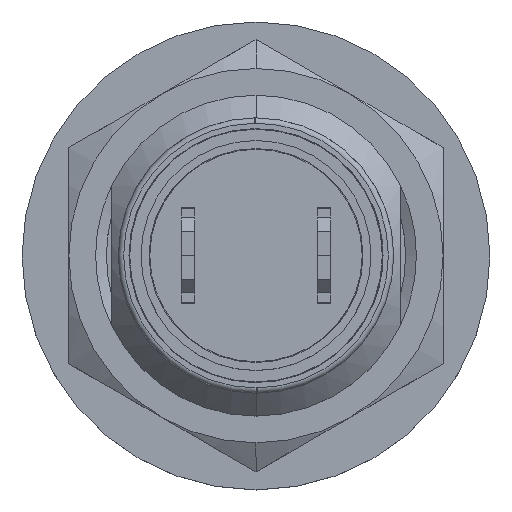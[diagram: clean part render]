
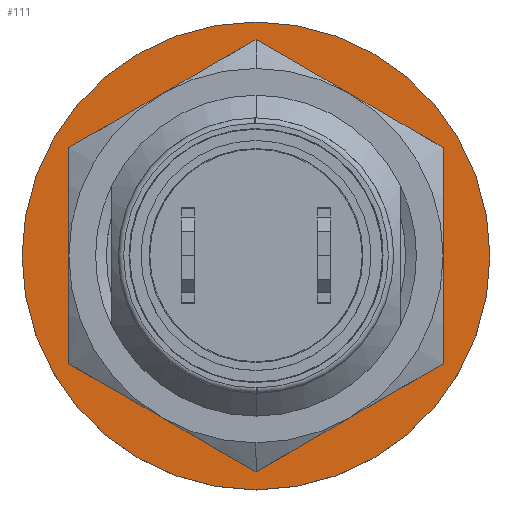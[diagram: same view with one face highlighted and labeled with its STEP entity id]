
A CAD part, top view. The second image highlights one B-rep face of the part: STEP entity #111.
In plain terms, the highlighted planar face has unit normal (0, 0, 1).
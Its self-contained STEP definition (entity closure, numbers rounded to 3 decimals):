
#111=ADVANCED_FACE('',(#386,#387),#388,.T.);
#386=FACE_OUTER_BOUND('',#902,.T.);
#387=FACE_BOUND('',#903,.T.);
#388=PLANE('',#904);
#902=EDGE_LOOP('',(#1589,#1590));
#903=EDGE_LOOP('',(#1591,#1592,#1593,#1594));
#904=AXIS2_PLACEMENT_3D('',#1595,#1596,#1597);
#1589=ORIENTED_EDGE('',*,*,#3178,.F.);
#1590=ORIENTED_EDGE('',*,*,#3179,.F.);
#1591=ORIENTED_EDGE('',*,*,#3180,.F.);
#1592=ORIENTED_EDGE('',*,*,#3123,.F.);
#1593=ORIENTED_EDGE('',*,*,#3127,.F.);
#1594=ORIENTED_EDGE('',*,*,#3181,.F.);
#1595=CARTESIAN_POINT('',(0.0,0.0,0.0));
#1596=DIRECTION('',(0.0,0.0,1.0));
#1597=DIRECTION('',(1.0,-0.0,0.0));
#3123=EDGE_CURVE('',#3719,#3721,#3722,.T.);
#3127=EDGE_CURVE('',#3726,#3719,#3729,.T.);
#3178=EDGE_CURVE('',#3827,#3828,#3829,.T.);
#3179=EDGE_CURVE('',#3828,#3827,#3830,.T.);
#3180=EDGE_CURVE('',#3721,#3831,#3832,.T.);
#3181=EDGE_CURVE('',#3831,#3726,#3833,.T.);
#3719=VERTEX_POINT('',#4641);
#3721=VERTEX_POINT('',#4644);
#3722=CIRCLE('',#4645,6.75);
#3726=VERTEX_POINT('',#4650);
#3729=CIRCLE('',#4654,6.75);
#3827=VERTEX_POINT('',#4791);
#3828=VERTEX_POINT('',#4792);
#3829=CIRCLE('',#4793,8.75);
#3830=CIRCLE('',#4794,8.75);
#3831=VERTEX_POINT('',#4795);
#3832=LINE('',#4796,#4797);
#3833=CIRCLE('',#4798,6.75);
#4641=CARTESIAN_POINT('',(0.,-6.75,0.0));
#4644=CARTESIAN_POINT('',(6.0,-3.092,0.0));
#4645=AXIS2_PLACEMENT_3D('',#6173,#6174,#6175);
#4650=CARTESIAN_POINT('',(0.0,6.75,0.0));
#4654=AXIS2_PLACEMENT_3D('',#6181,#6182,#6183);
#4791=CARTESIAN_POINT('',(0.0,-8.75,0.0));
#4792=CARTESIAN_POINT('',(0.0,8.75,0.0));
#4793=AXIS2_PLACEMENT_3D('',#6292,#6293,#6294);
#4794=AXIS2_PLACEMENT_3D('',#6295,#6296,#6297);
#4795=CARTESIAN_POINT('',(6.0,3.092,0.0));
#4796=CARTESIAN_POINT('',(6.0,-3.092,0.0));
#4797=VECTOR('',#6298,6.185);
#4798=AXIS2_PLACEMENT_3D('',#6299,#6300,#6301);
#6173=CARTESIAN_POINT('',(0.0,0.0,0.0));
#6174=DIRECTION('',(0.0,-0.0,1.0));
#6175=DIRECTION('',(0.0,1.0,0.0));
#6181=CARTESIAN_POINT('',(0.0,0.0,0.0));
#6182=DIRECTION('',(0.0,-0.0,1.0));
#6183=DIRECTION('',(0.0,1.0,0.0));
#6292=CARTESIAN_POINT('',(0.0,0.0,0.0));
#6293=DIRECTION('',(0.0,0.0,-1.0));
#6294=DIRECTION('',(0.0,-1.0,0.0));
#6295=CARTESIAN_POINT('',(0.0,0.0,0.0));
#6296=DIRECTION('',(0.0,0.0,-1.0));
#6297=DIRECTION('',(0.0,1.0,0.0));
#6298=DIRECTION('',(0.,1.0,0.0));
#6299=CARTESIAN_POINT('',(0.0,0.0,0.0));
#6300=DIRECTION('',(0.0,-0.0,1.0));
#6301=DIRECTION('',(0.889,0.458,0.0));
